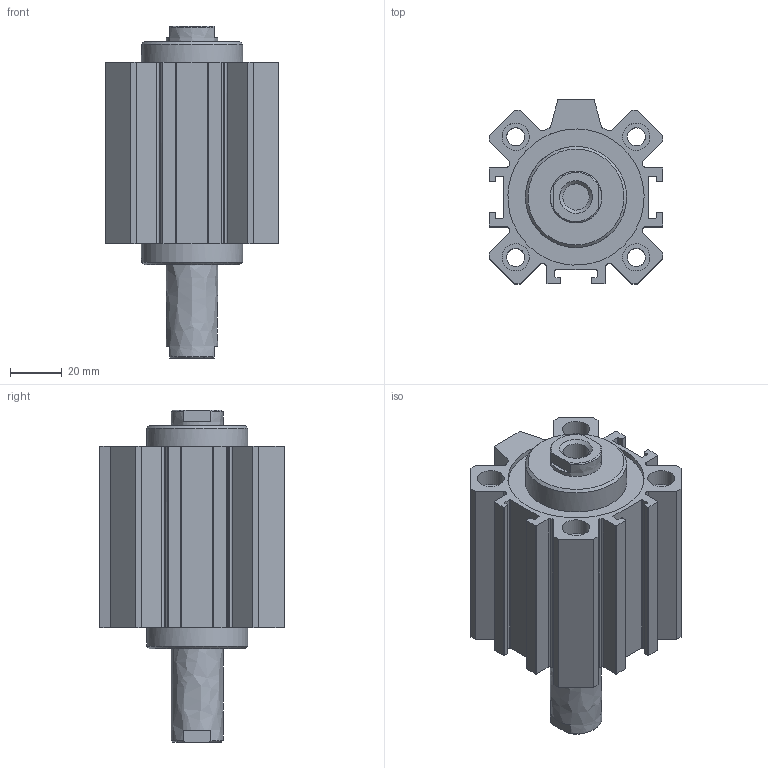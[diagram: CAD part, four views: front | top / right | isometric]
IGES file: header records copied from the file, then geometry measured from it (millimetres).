
Global section: file name: 1514_50_0030; native system: Autodesk Inventor 2014; preprocessor: unknown; author: A. Manieri; date: 20160824.134153; units: millimetre
Bounding box: 67 x 71 x 128 mm (x, y, z)
Volume: 220136.4 mm3; surface area: 70710.8 mm2
Topology: 2 solids, 2 shells, 178 faces, 482 edges, 328 vertices
Faces by surface type: bspline 178
